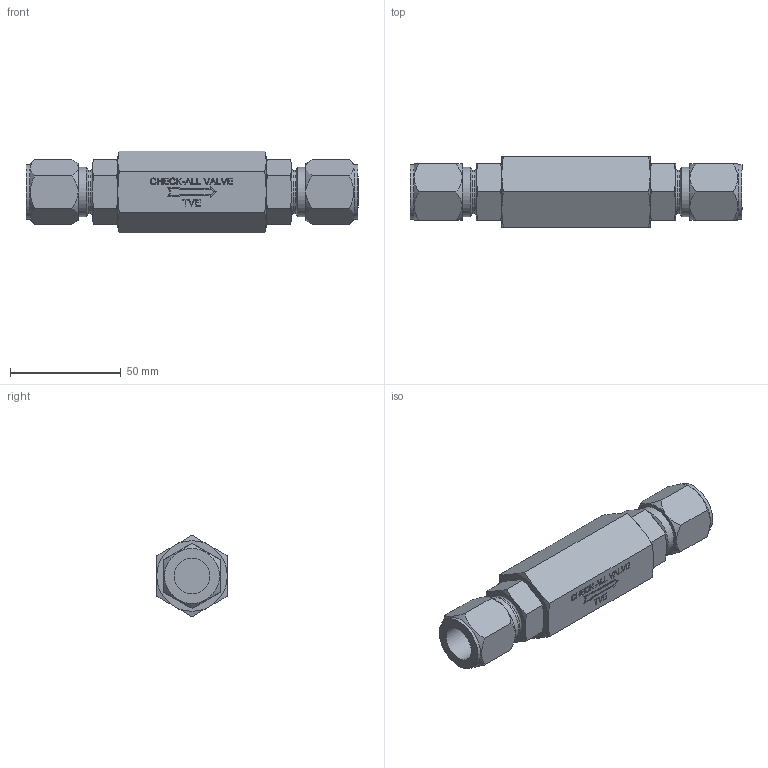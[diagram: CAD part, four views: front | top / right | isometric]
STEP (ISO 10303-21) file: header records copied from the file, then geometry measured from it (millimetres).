
FILE_DESCRIPTION( ( 'Unknown' ), '1' );
FILE_NAME( 'Y:/ENGR/3D Solid Edge Models/TV/stp/TVE.stp', 'Unknown', ( 'Unknown' ), ( 'Unknown' ), 'PSStep 16.0.42', 'Unknown', ' ' );
FILE_SCHEMA( ( 'AUTOMOTIVE_DESIGN { 1 0 10303 214 1 1 1 1 }' ) );
Length unit declared in the file: millimetre
Products named in the file (1): 1
Bounding box: 149.61 x 31.75 x 36.66 mm (x, y, z)
Volume: 91947.8 mm3; surface area: 19344 mm2
Topology: 1 solids, 1 shells, 288 faces, 719 edges, 462 vertices
Faces by surface type: extrusion 141, plane 85, cone 52, cylinder 8, torus 2
Full cylindrical faces by diameter (mm): 16.04 x2, 19.634 x2, 22.225 x2, 24.714 x2
Entity records: 12125 total; most frequent: CARTESIAN_POINT 3030, ORIENTED_EDGE 1398, DIRECTION 939, EDGE_CURVE 699, VECTOR 511, VERTEX_POINT 456, PRESENTATION_STYLE_ASSIGNMENT 407, COLOUR_RGB 407
